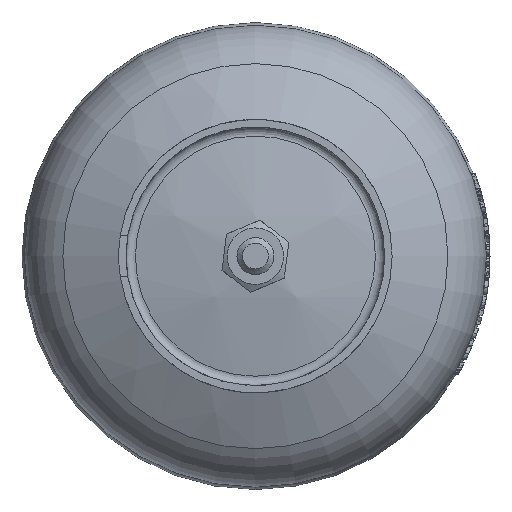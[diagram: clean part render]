
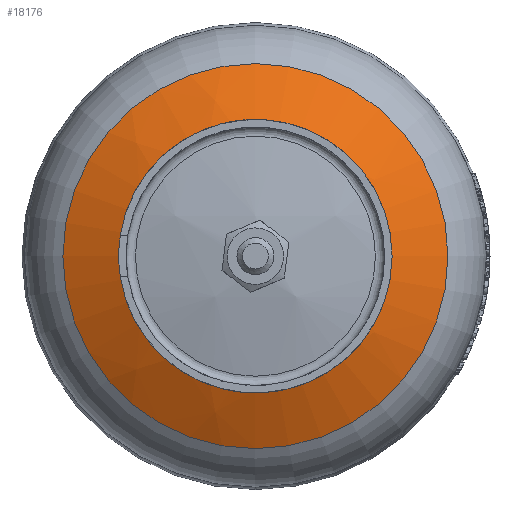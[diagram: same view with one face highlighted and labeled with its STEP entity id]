
A CAD part, front view. The second image highlights one B-rep face of the part: STEP entity #18176.
In plain terms, the highlighted spherical face has radius 105.405 mm.
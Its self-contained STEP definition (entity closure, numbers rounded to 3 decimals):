
#19=SPHERICAL_SURFACE('',#19516,105.405);
#4229=FACE_BOUND('',#6393,.T.);
#5253=FACE_OUTER_BOUND('',#6392,.T.);
#6392=EDGE_LOOP('',(#16604));
#6393=EDGE_LOOP('',(#16605));
#6478=CIRCLE('',#18330,36.241);
#6742=CIRCLE('',#19515,52.119);
#6904=VERTEX_POINT('',#24555);
#8548=VERTEX_POINT('',#39427);
#8778=EDGE_CURVE('',#6904,#6904,#6478,.T.);
#11239=EDGE_CURVE('',#8548,#8548,#6742,.T.);
#16604=ORIENTED_EDGE('',*,*,#11239,.F.);
#16605=ORIENTED_EDGE('',*,*,#8778,.T.);
#18176=ADVANCED_FACE('',(#5253,#4229),#19,.T.);
#18330=AXIS2_PLACEMENT_3D('',#24556,#19924,#19925);
#19515=AXIS2_PLACEMENT_3D('',#39428,#23423,#23424);
#19516=AXIS2_PLACEMENT_3D('',#39429,#23425,#23426);
#19924=DIRECTION('center_axis',(0.,1.,0.));
#19925=DIRECTION('ref_axis',(0.,0.,-1.));
#23423=DIRECTION('center_axis',(0.,1.,0.));
#23424=DIRECTION('ref_axis',(0.,0.,
1.));
#23425=DIRECTION('center_axis',(-1.,0.,0.));
#23426=DIRECTION('ref_axis',(0.,0.,
1.));
#24555=CARTESIAN_POINT('',(36.241,-168.915,0.));
#24556=CARTESIAN_POINT('Origin',(0.,-168.915,0.));
#39427=CARTESIAN_POINT('',(0.,-161.554,52.119));
#39428=CARTESIAN_POINT('Origin',(0.,-161.554,
0.));
#39429=CARTESIAN_POINT('Origin',(0.,-69.936,
0.));
